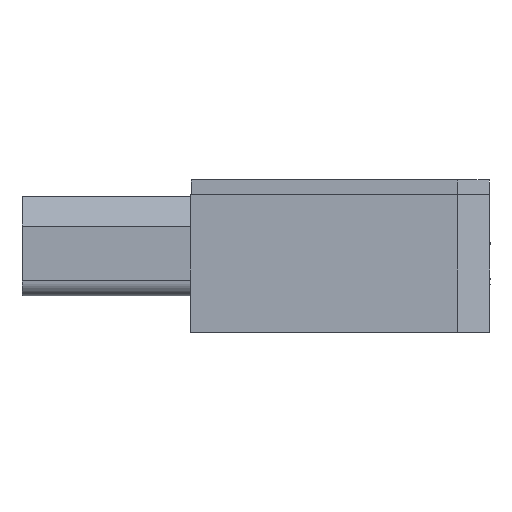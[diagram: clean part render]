
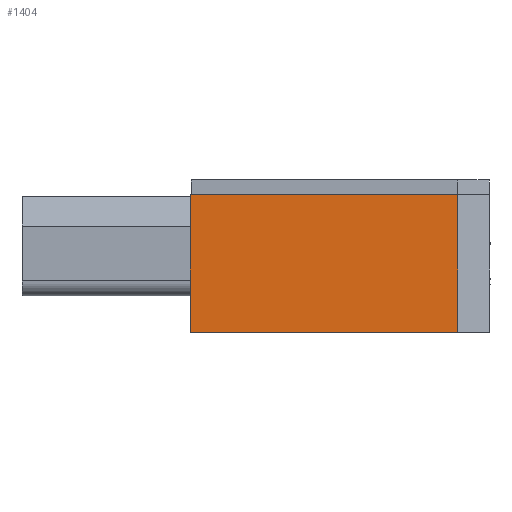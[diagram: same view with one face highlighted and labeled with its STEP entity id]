
A CAD part, front view. The second image highlights one B-rep face of the part: STEP entity #1404.
In plain terms, the highlighted planar face has unit normal (0, -1, 0).
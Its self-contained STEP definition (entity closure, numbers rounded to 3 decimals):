
#1404=ADVANCED_FACE('',(#3316),#3317,.T.);
#3316=FACE_OUTER_BOUND('',#5973,.T.);
#3317=PLANE('',#5974);
#5973=EDGE_LOOP('',(#10280,#10281,#10282,#10283));
#5974=AXIS2_PLACEMENT_3D('',#10284,#10285,#10286);
#10280=ORIENTED_EDGE('',*,*,#16078,.F.);
#10281=ORIENTED_EDGE('',*,*,#15489,.F.);
#10282=ORIENTED_EDGE('',*,*,#15637,.F.);
#10283=ORIENTED_EDGE('',*,*,#15462,.T.);
#10284=CARTESIAN_POINT('',(102.679,0.0,0.0));
#10285=DIRECTION('',(0.0,-1.0,0.0));
#10286=DIRECTION('',(0.0,0.0,-1.0));
#15462=EDGE_CURVE('',#18318,#18316,#18319,.T.);
#15489=EDGE_CURVE('',#18366,#18367,#18368,.T.);
#15637=EDGE_CURVE('',#18318,#18366,#18622,.T.);
#16078=EDGE_CURVE('',#18367,#18316,#19303,.T.);
#18316=VERTEX_POINT('',#22572);
#18318=VERTEX_POINT('',#22575);
#18319=LINE('',#22576,#22577);
#18366=VERTEX_POINT('',#22642);
#18367=VERTEX_POINT('',#22643);
#18368=LINE('',#22644,#22645);
#18622=LINE('',#23046,#23047);
#19303=LINE('',#24162,#24163);
#22572=CARTESIAN_POINT('',(107.0,0.0,0.));
#22575=CARTESIAN_POINT('',(0.0,0.0,0.0));
#22576=CARTESIAN_POINT('',(102.679,0.0,0.0));
#22577=VECTOR('',#28504,1.0);
#22642=CARTESIAN_POINT('',(0.0,0.0,55.0));
#22643=CARTESIAN_POINT('',(107.0,0.,55.0));
#22644=CARTESIAN_POINT('',(102.679,0.0,55.0));
#22645=VECTOR('',#28542,1.0);
#23046=CARTESIAN_POINT('',(0.0,0.0,0.0));
#23047=VECTOR('',#28650,1.0);
#24162=CARTESIAN_POINT('',(107.0,0.0,0.));
#24163=VECTOR('',#28931,1.0);
#28504=DIRECTION('',(1.0,0.0,0.));
#28542=DIRECTION('',(1.0,0.0,0.));
#28650=DIRECTION('',(0.0,0.0,1.0));
#28931=DIRECTION('',(0.,0.0,-1.0));
